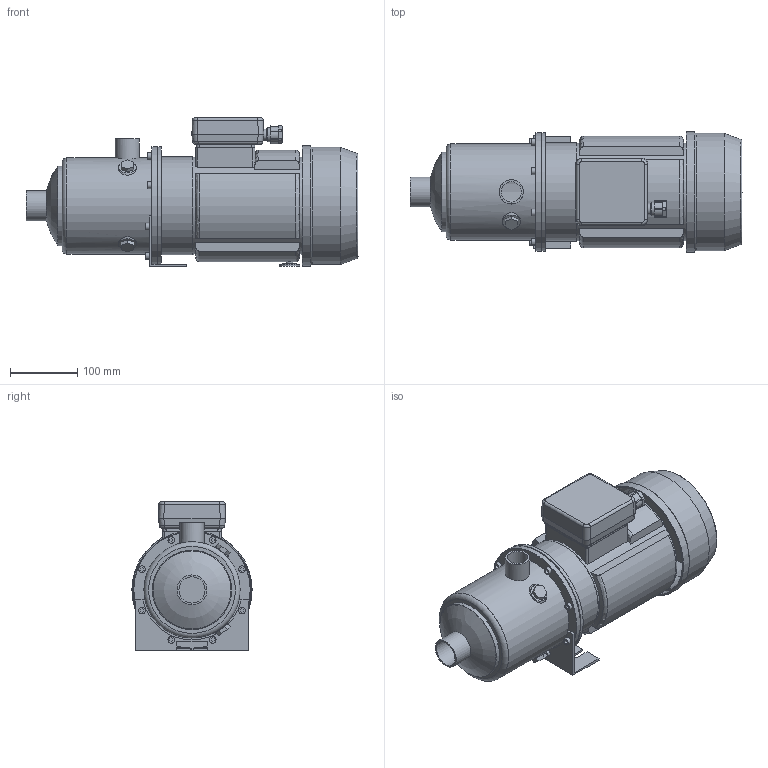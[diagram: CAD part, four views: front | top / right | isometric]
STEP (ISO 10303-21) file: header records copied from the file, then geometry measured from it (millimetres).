
FILE_DESCRIPTION(/* description */ ('Unknown'),/* implementation_level */ '2;1');
FILE_NAME(/* name */ 'MH 5 [5] T6 IE3',/* time_stamp */ '2026-07-10T15:13:28+02:00',/* author */ ('Unknown'),/* organization */ ('Unknown'),/* preprocessor_version */ 'ST-DEVELOPER v20',/* originating_system */ 'Solid Edge',/* authorisation */ 'Unknown');
FILE_SCHEMA (('AUTOMOTIVE_DESIGN {1 0 10303 214 3 1 1}'));
Length unit declared in the file: millimetre
Products named in the file (10): MH 5 [5] T6 IE3; Flangia motore Tonda M90; Corpo MH 3-5 [5]; Motore MEC 90 - T; carcassa MEC 90; Copriventola MEC 90; Ghiera PG13,5 cod. SAV.GHI.20; Basetta MEC 80-90-100 T; Piedino MEC 90 int.90; Staffa 3-5-9 int.90
Assembly tree (9 placements, depth 3):
  MH 5 [5] T6 IE3
    Flangia motore Tonda M90
    Corpo MH 3-5 [5]
    Motore MEC 90 - T
      carcassa MEC 90
      Copriventola MEC 90
      Ghiera PG13,5 cod. SAV.GHI.20
      Basetta MEC 80-90-100 T
    Piedino MEC 90 int.90
    Staffa 3-5-9 int.90
Bounding box: 494.6 x 179.1 x 221.5 mm (x, y, z)
Volume: 2909941.4 mm3; surface area: 655494.6 mm2
Topology: 8 solids, 8 shells, 321 faces, 765 edges, 506 vertices
Faces by surface type: plane 180, cylinder 100, cone 20, torus 11, bspline 8, sphere 2
Full cylindrical faces by diameter (mm): 7 x4, 10 x9, 13 x1, 17 x1, 19.73 x1, 20.4 x1, 21 x1, 30 x1, 30.291 x1, 36 x1, 38.952 x1, 44.5 x1, 116.1 x1, 118.5 x1, 135 x1, 140 x3, 141.1 x1, 143.5 x1, 145 x1, 146 x1, 169.5 x1, 173.5 x1, 174.1 x2, 174.5 x1, 176.5 x2, 179.1 x1
Entity records: 10561 total; most frequent: CARTESIAN_POINT 1948, DIRECTION 1507, ORIENTED_EDGE 1350, EDGE_CURVE 675, AXIS2_PLACEMENT_3D 561, VERTEX_POINT 477, EDGE_LOOP 438, FACE_BOUND 438
